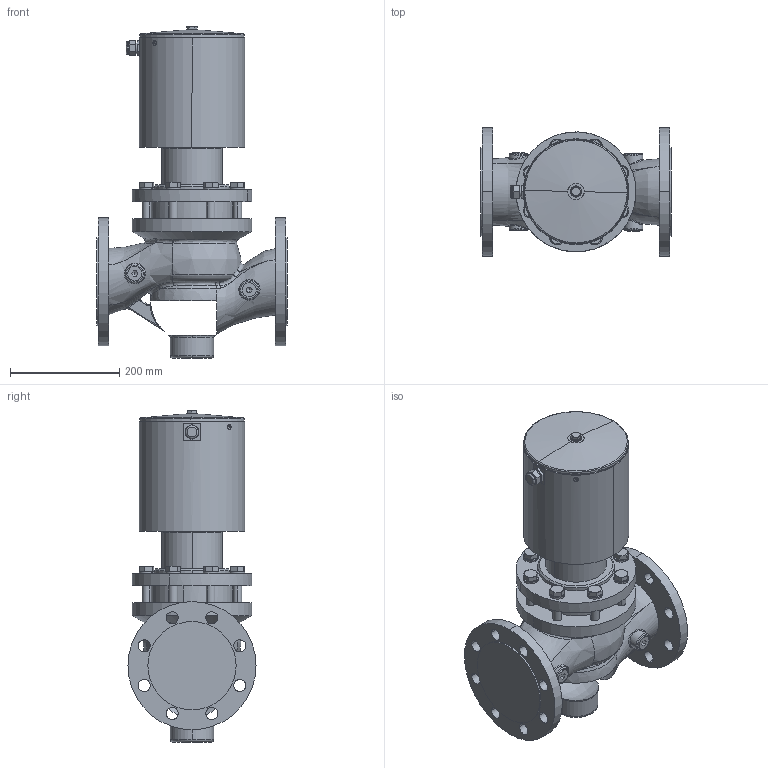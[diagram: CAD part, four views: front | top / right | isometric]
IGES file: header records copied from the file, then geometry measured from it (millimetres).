
Global section: file name: No Iges File Name specified; native system: AutoDesk Inventor R12.0; preprocessor: AutoDesk Inventor Iges Exporter R12.0; date: 20091111.145903; units: millimetre
Bounding box: 350 x 235 x 608.97 mm (x, y, z)
Volume: 14912134.5 mm3; surface area: 748939.9 mm2
Topology: 2 solids, 2 shells, 506 faces, 1255 edges, 779 vertices
Faces by surface type: plane 176, bspline 112, cylinder 108, cone 70, torus 20, revolution 16, sphere 4
